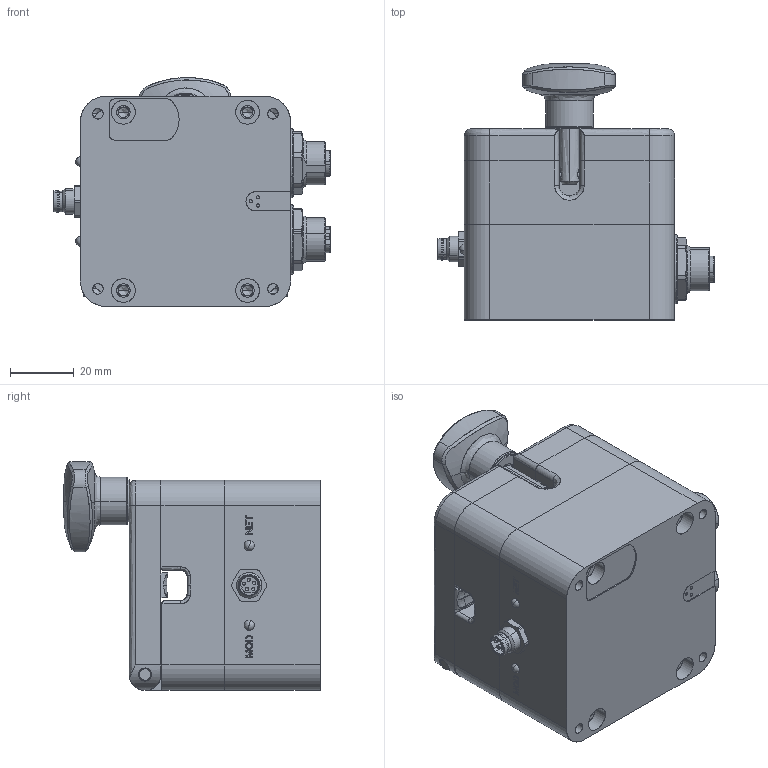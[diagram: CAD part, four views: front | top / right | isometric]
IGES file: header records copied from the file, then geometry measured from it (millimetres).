
Start section: SolidWorks IGES file using analytic representation for surfaces
Global section: file name: C:\Users\mhooglugt\Siemens\swcache\MFC117\BCU-0375.IGS; native system: SolidWorks 2023; preprocessor: SolidWorks 2023; author: MHooglugt; date: 250729.102949; units: inch
Bounding box: 87.1 x 80.5 x 71.89 mm (x, y, z)
Surface area: 60728.5 mm2 (no closed solid volume)
Topology: 0 solids, 0 shells, 1239 faces, 14728 edges, 14637 vertices
Faces by surface type: bspline 670, revolution 569
